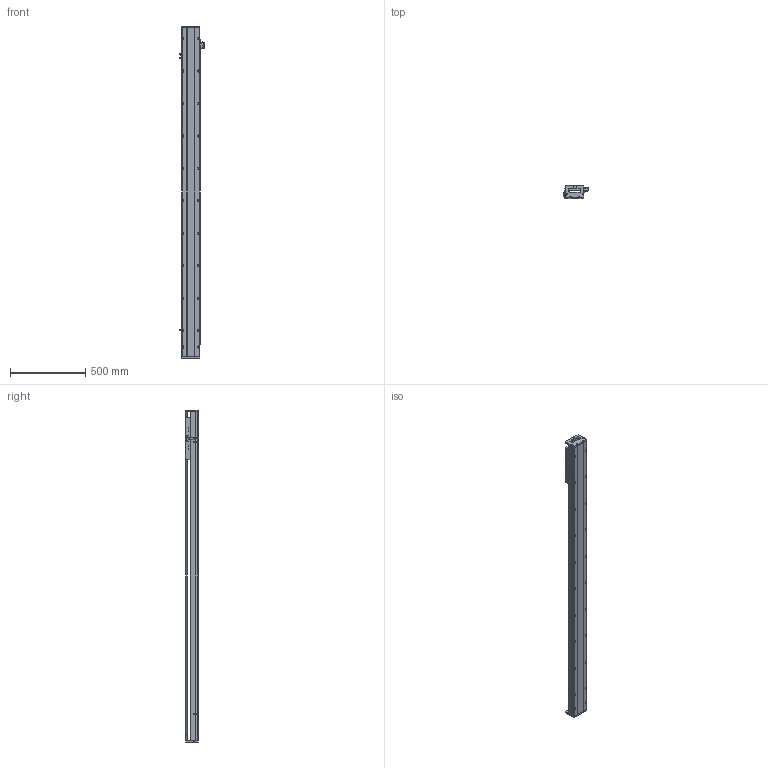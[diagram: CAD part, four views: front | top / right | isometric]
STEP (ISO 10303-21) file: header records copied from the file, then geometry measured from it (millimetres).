
FILE_DESCRIPTION (( 'STEP AP203' ), '1' );
FILE_NAME ('SKR12S-C2-S1828（简）.STEP', '2022-09-26T05:36:13', ( '' ), ( '' ), 'SwSTEP 2.0', 'SolidWorks 2018', '' );
FILE_SCHEMA (( 'CONFIG_CONTROL_DESIGN' ));
Length unit declared in the file: millimetre
Products named in the file (8): SKR12滑台-280L（简）; 覜茼え; SKR12耜啣; SKR12菁釱-C2-S1828(潠); 棠掑假蚾輸; EE-SX672; SIKO棠掑; SKR12S-C2-S1828（简）
Assembly tree (10 placements, depth 2):
  SKR12S-C2-S1828（简）
    SKR12菁釱-C2-S1828(潠)
    SKR12滑台-280L（简）
    SKR12耜啣  x2
    棠掑假蚾輸
    SIKO棠掑
    EE-SX672  x3
    覜茼え
Bounding box: 162.7 x 87.3 x 2208 mm (x, y, z)
Volume: 9775420.6 mm3; surface area: 1531976.7 mm2
Topology: 11 solids, 11 shells, 1114 faces, 2985 edges, 1883 vertices
Faces by surface type: cylinder 540, plane 420, cone 154
Entity records: 31435 total; most frequent: CARTESIAN_POINT 6807, DIRECTION 5077, ORIENTED_EDGE 4894, EDGE_CURVE 2447, AXIS2_PLACEMENT_3D 1897, VERTEX_POINT 1587, LINE 1283, VECTOR 1283
